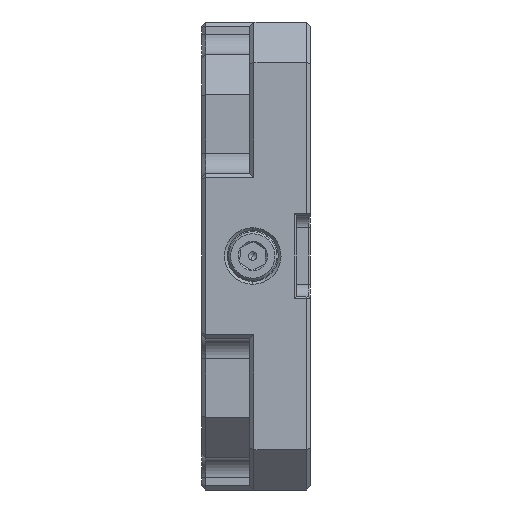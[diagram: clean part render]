
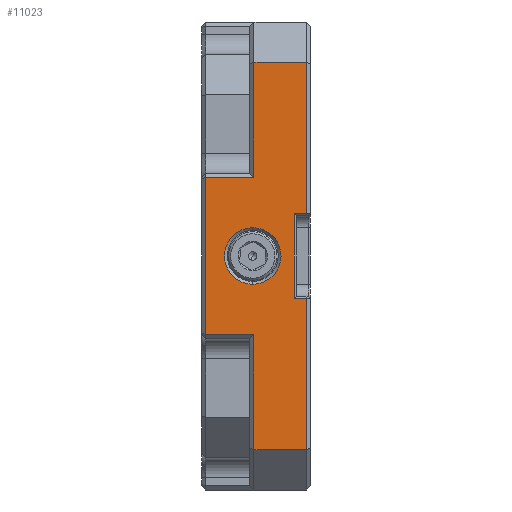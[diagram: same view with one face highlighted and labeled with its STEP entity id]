
A CAD part, left-side view. The second image highlights one B-rep face of the part: STEP entity #11023.
In plain terms, the highlighted planar face has unit normal (-1, 0, 0).
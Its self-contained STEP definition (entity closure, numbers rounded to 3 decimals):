
#2709=DIRECTION('',(0.,1.,0.));
#2710=VECTOR('',#2709,3.);
#2711=CARTESIAN_POINT('',(-75.,1.,10.5));
#2712=LINE('',#2711,#2710);
#3069=DIRECTION('',(0.,0.,-1.));
#3070=VECTOR('',#3069,37.5);
#3071=CARTESIAN_POINT('',(-75.,1.,48.));
#3072=LINE('',#3071,#3070);
#3077=CARTESIAN_POINT('',(-75.,14.3,0.));
#3078=DIRECTION('',(1.,0.,0.));
#3079=DIRECTION('',(0.,0.,1.));
#3080=AXIS2_PLACEMENT_3D('',#3077,#3078,#3079);
#3082=CARTESIAN_POINT('',(-75.,14.3,0.));
#3083=DIRECTION('',(1.,0.,0.));
#3084=DIRECTION('',(0.,0.,-1.));
#3085=AXIS2_PLACEMENT_3D('',#3082,#3083,#3084);
#3095=DIRECTION('',(0.,0.,-1.));
#3096=VECTOR('',#3095,37.5);
#3097=CARTESIAN_POINT('',(-75.,1.,-10.5));
#3098=LINE('',#3097,#3096);
#3636=DIRECTION('',(0.,0.,1.));
#3637=VECTOR('',#3636,39.);
#3638=CARTESIAN_POINT('',(-75.,26.,-19.5));
#3639=LINE('',#3638,#3637);
#3729=DIRECTION('',(0.,1.,0.));
#3730=VECTOR('',#3729,12.);
#3731=CARTESIAN_POINT('',(-75.,14.,-19.5));
#3732=LINE('',#3731,#3730);
#3745=DIRECTION('',(0.,0.,1.));
#3746=VECTOR('',#3745,28.5);
#3747=CARTESIAN_POINT('',(-75.,14.,-48.));
#3748=LINE('',#3747,#3746);
#3815=DIRECTION('',(0.,1.,0.));
#3816=VECTOR('',#3815,13.);
#3817=CARTESIAN_POINT('',(-75.,1.,-48.));
#3818=LINE('',#3817,#3816);
#3823=DIRECTION('',(0.,-1.,0.));
#3824=VECTOR('',#3823,12.);
#3825=CARTESIAN_POINT('',(-75.,26.,19.5));
#3826=LINE('',#3825,#3824);
#4565=DIRECTION('',(0.,-1.,0.));
#4566=VECTOR('',#4565,13.);
#4567=CARTESIAN_POINT('',(-75.,14.,48.));
#4568=LINE('',#4567,#4566);
#4593=DIRECTION('',(0.,0.,1.));
#4594=VECTOR('',#4593,28.5);
#4595=CARTESIAN_POINT('',(-75.,14.,19.5));
#4596=LINE('',#4595,#4594);
#8847=DIRECTION('',(0.,-1.,0.));
#8848=VECTOR('',#8847,3.);
#8849=CARTESIAN_POINT('',(-75.,4.,-10.5));
#8850=LINE('',#8849,#8848);
#8859=DIRECTION('',(0.,0.,-1.));
#8860=VECTOR('',#8859,21.);
#8861=CARTESIAN_POINT('',(-75.,4.,10.5));
#8862=LINE('',#8861,#8860);
#9107=CARTESIAN_POINT('',(-75.,26.,-19.5));
#9109=VERTEX_POINT('',#9107);
#9200=CARTESIAN_POINT('',(-75.,14.,-48.));
#9202=VERTEX_POINT('',#9200);
#9256=CARTESIAN_POINT('',(-75.,14.,19.5));
#9258=VERTEX_POINT('',#9256);
#9428=CARTESIAN_POINT('',(-75.,14.,48.));
#9430=VERTEX_POINT('',#9428);
#9507=CARTESIAN_POINT('',(-75.,4.,-10.5));
#9508=CARTESIAN_POINT('',(-75.,1.,-10.5));
#9509=VERTEX_POINT('',#9507);
#9510=VERTEX_POINT('',#9508);
#9683=CARTESIAN_POINT('',(-75.,1.,48.));
#9685=VERTEX_POINT('',#9683);
#10022=CARTESIAN_POINT('',(-75.,1.,10.5));
#10023=CARTESIAN_POINT('',(-75.,4.,10.5));
#10024=VERTEX_POINT('',#10022);
#10025=VERTEX_POINT('',#10023);
#10030=CARTESIAN_POINT('',(-75.,14.3,-7.));
#10031=CARTESIAN_POINT('',(-75.,14.3,7.));
#10032=VERTEX_POINT('',#10030);
#10033=VERTEX_POINT('',#10031);
#10139=CARTESIAN_POINT('',(-75.,26.,19.5));
#10140=VERTEX_POINT('',#10139);
#10236=CARTESIAN_POINT('',(-75.,14.,-19.5));
#10237=VERTEX_POINT('',#10236);
#10352=CARTESIAN_POINT('',(-75.,1.,-48.));
#10353=VERTEX_POINT('',#10352);
#10988=CARTESIAN_POINT('',(-75.,27.,58.));
#10989=DIRECTION('',(1.,0.,0.));
#10990=DIRECTION('',(0.,0.,-1.));
#10991=AXIS2_PLACEMENT_3D('',#10988,#10989,#10990);
#10992=PLANE('',#10991);
#10994=ORIENTED_EDGE('',*,*,#10993,.T.);
#10996=ORIENTED_EDGE('',*,*,#10995,.T.);
#10998=ORIENTED_EDGE('',*,*,#10997,.T.);
#11000=ORIENTED_EDGE('',*,*,#10999,.T.);
#11002=ORIENTED_EDGE('',*,*,#11001,.T.);
#11004=ORIENTED_EDGE('',*,*,#11003,.T.);
#11006=ORIENTED_EDGE('',*,*,#11005,.T.);
#11008=ORIENTED_EDGE('',*,*,#11007,.T.);
#11009=ORIENTED_EDGE('',*,*,#10980,.T.);
#11010=ORIENTED_EDGE('',*,*,#10506,.T.);
#11012=ORIENTED_EDGE('',*,*,#11011,.T.);
#11014=ORIENTED_EDGE('',*,*,#11013,.T.);
#11015=EDGE_LOOP('',(#10994,#10996,#10998,#11000,#11002,#11004,#11006,#11008,
#11009,#11010,#11012,#11014));
#11016=FACE_OUTER_BOUND('',#11015,.F.);
#11018=ORIENTED_EDGE('',*,*,#11017,.F.);
#11020=ORIENTED_EDGE('',*,*,#11019,.F.);
#11021=EDGE_LOOP('',(#11018,#11020));
#11022=FACE_BOUND('',#11021,.F.);
#11023=ADVANCED_FACE('',(#11016,#11022),#10992,.F.);
#3081=CIRCLE('',#3080,7.);
#3086=CIRCLE('',#3085,7.);
#10506=EDGE_CURVE('',#10024,#10025,#2712,.T.);
#10980=EDGE_CURVE('',#9685,#10024,#3072,.T.);
#10993=EDGE_CURVE('',#9510,#10353,#3098,.T.);
#10995=EDGE_CURVE('',#10353,#9202,#3818,.T.);
#10997=EDGE_CURVE('',#9202,#10237,#3748,.T.);
#10999=EDGE_CURVE('',#10237,#9109,#3732,.T.);
#11001=EDGE_CURVE('',#9109,#10140,#3639,.T.);
#11003=EDGE_CURVE('',#10140,#9258,#3826,.T.);
#11005=EDGE_CURVE('',#9258,#9430,#4596,.T.);
#11007=EDGE_CURVE('',#9430,#9685,#4568,.T.);
#11011=EDGE_CURVE('',#10025,#9509,#8862,.T.);
#11013=EDGE_CURVE('',#9509,#9510,#8850,.T.);
#11017=EDGE_CURVE('',#10033,#10032,#3081,.T.);
#11019=EDGE_CURVE('',#10032,#10033,#3086,.T.);
